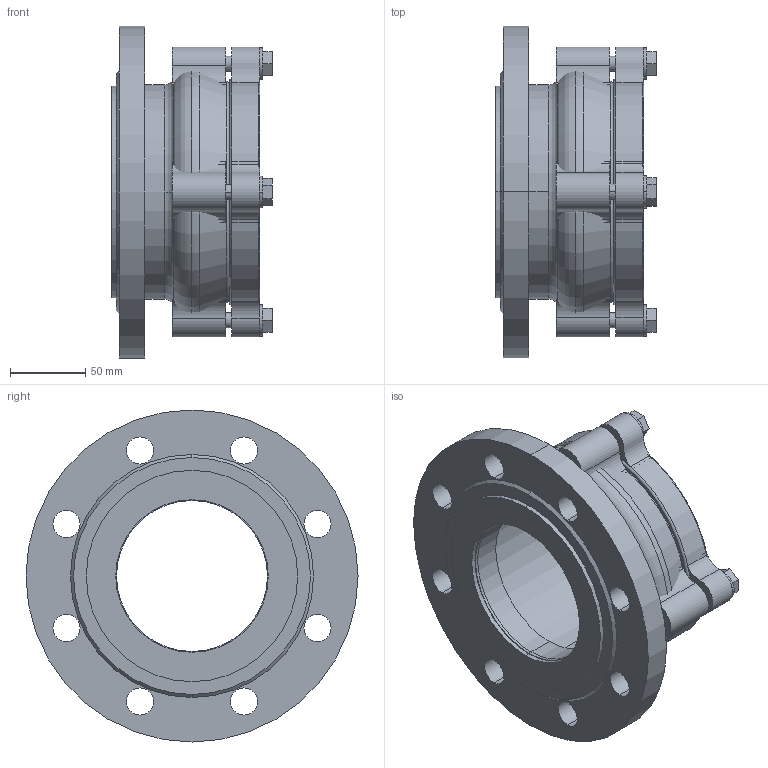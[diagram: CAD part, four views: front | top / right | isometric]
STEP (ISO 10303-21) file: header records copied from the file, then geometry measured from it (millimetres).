
FILE_DESCRIPTION(('STEP AP214'),'1');
FILE_NAME('U:/VDI-Daten/7200-(0400)/7200_PN16_DN100_125.STP','2012-06-15T09:35:23',(' '),(' '),'Spatial InterOp 3D',' ',' ');
FILE_SCHEMA(('automotive_design'));
Length unit declared in the file: millimetre
Products named in the file (26): 3D-Objekt
Bounding box: 106.4 x 220 x 220 mm (x, y, z)
Volume: 1143507.6 mm3; surface area: 325688.2 mm2
Topology: 26 solids, 26 shells, 205 faces, 456 edges, 304 vertices
Faces by surface type: cylinder 94, plane 93, torus 12, cone 6
Entity records: 8082 total; most frequent: DIRECTION 1154, CARTESIAN_POINT 991, ORIENTED_EDGE 912, AXIS2_PLACEMENT_3D 467, EDGE_CURVE 456, VERTEX_POINT 304, CIRCLE 236, EDGE_LOOP 234
